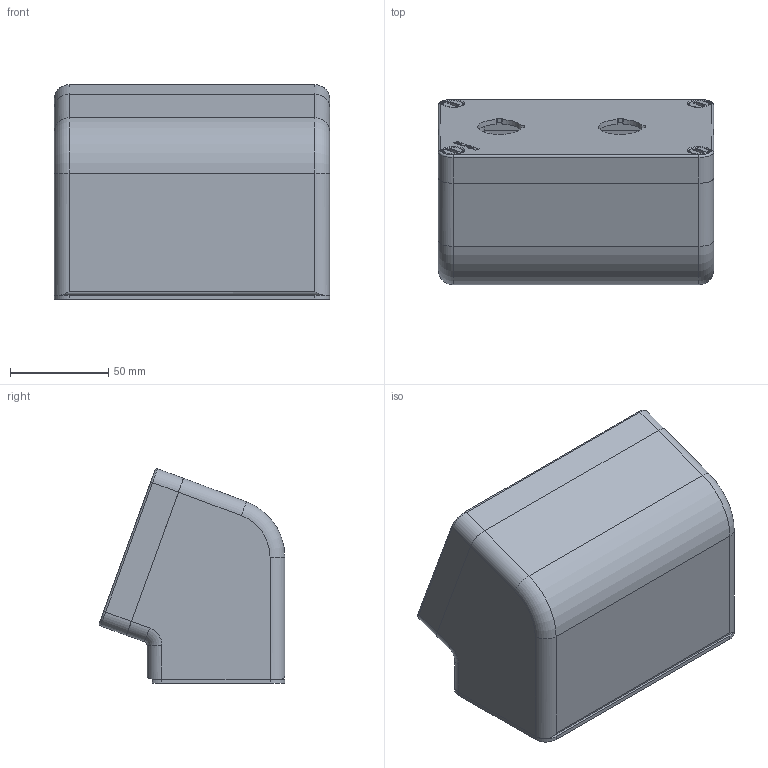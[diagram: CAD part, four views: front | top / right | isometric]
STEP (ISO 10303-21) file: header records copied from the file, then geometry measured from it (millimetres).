
FILE_DESCRIPTION (( 'STEP AP214' ), '1' );
FILE_NAME ('040L0814-8EP2.STEP', '2018-10-03T09:13:28', ( '' ), ( '' ), 'SwSTEP 2.0', 'SolidWorks 2013', '' );
FILE_SCHEMA (( 'AUTOMOTIVE_DESIGN' ));
Length unit declared in the file: millimetre
Products named in the file (1): 040L0814-8EP2
Bounding box: 140 x 94.41 x 109.11 mm (x, y, z)
Volume: 286552.8 mm3; surface area: 144162 mm2
Topology: 7 solids, 7 shells, 573 faces, 1451 edges, 918 vertices
Faces by surface type: cylinder 253, plane 238, torus 80, bspline 2
Entity records: 23672 total; most frequent: CARTESIAN_POINT 3474, DIRECTION 3058, ORIENTED_EDGE 2902, EDGE_CURVE 1451, AXIS2_PLACEMENT_3D 1119, VERTEX_POINT 918, LINE 820, VECTOR 820
